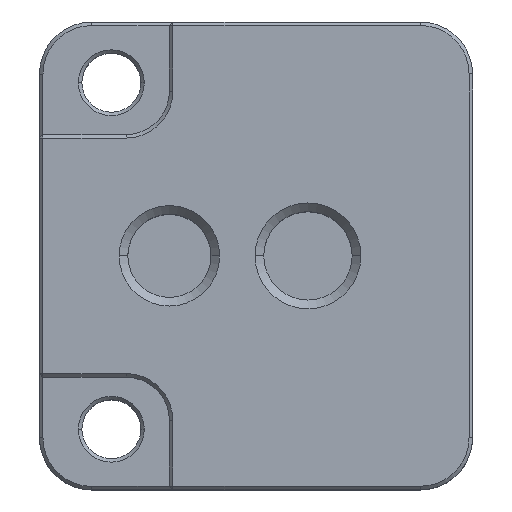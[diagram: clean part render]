
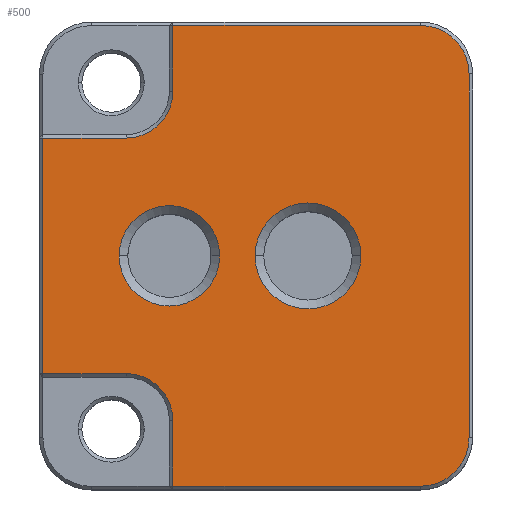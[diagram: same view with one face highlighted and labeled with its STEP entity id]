
A CAD part, top view. The second image highlights one B-rep face of the part: STEP entity #500.
In plain terms, the highlighted planar face has unit normal (0, 0, 1).
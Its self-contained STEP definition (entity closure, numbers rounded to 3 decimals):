
#64 = VERTEX_POINT ( 'NONE', #224 ) ;
#78 = DIRECTION ( 'NONE',  ( 0., 0., 1. ) ) ;
#89 = ORIENTED_EDGE ( 'NONE', *, *, #2319, .T. ) ;
#99 = DIRECTION ( 'NONE',  ( 0., 0., -1. ) ) ;
#112 = CARTESIAN_POINT ( 'NONE',  ( -11., 6.8, 10. ) ) ;
#114 = EDGE_CURVE ( 'NONE', #1691, #750, #1703, .T. ) ;
#124 = CARTESIAN_POINT ( 'NONE',  ( -0.5, 0., 10. ) ) ;
#138 = ORIENTED_EDGE ( 'NONE', *, *, #114, .T. ) ;
#146 = DIRECTION ( 'NONE',  ( 1., 0., 0. ) ) ;
#152 = AXIS2_PLACEMENT_3D ( 'NONE', #2352, #2374, #650 ) ;
#176 = DIRECTION ( 'NONE',  ( 1., 0., 0. ) ) ;
#180 = VERTEX_POINT ( 'NONE', #399 ) ;
#197 = CARTESIAN_POINT ( 'NONE',  ( -11., -6.8, 10. ) ) ;
#201 = VERTEX_POINT ( 'NONE', #1399 ) ;
#224 = CARTESIAN_POINT ( 'NONE',  ( -11.4, 0., 10. ) ) ;
#246 = VECTOR ( 'NONE', #1919, 1000. ) ;
#251 = EDGE_LOOP ( 'NONE', ( #641, #138, #663, #1221, #1545, #828, #89, #2134, #660, #491, #2232, #1058 ) ) ;
#300 = VECTOR ( 'NONE', #304, 1000. ) ;
#304 = DIRECTION ( 'NONE',  ( 1., 0., 0. ) ) ;
#347 = CARTESIAN_POINT ( 'NONE',  ( 6., -13.3, 10. ) ) ;
#356 = VERTEX_POINT ( 'NONE', #1439 ) ;
#384 = AXIS2_PLACEMENT_3D ( 'NONE', #1312, #1304, #2269 ) ;
#389 = CARTESIAN_POINT ( 'NONE',  ( -11., 9.5, 10. ) ) ;
#393 = DIRECTION ( 'NONE',  ( 1., 0., 0. ) ) ;
#399 = CARTESIAN_POINT ( 'NONE',  ( -8.3, -9.5, 10. ) ) ;
#400 = VERTEX_POINT ( 'NONE', #1065 ) ;
#402 = DIRECTION ( 'NONE',  ( 1., 0., 0. ) ) ;
#405 = ORIENTED_EDGE ( 'NONE', *, *, #1052, .T. ) ;
#427 = AXIS2_PLACEMENT_3D ( 'NONE', #2226, #2411, #146 ) ;
#436 = EDGE_CURVE ( 'NONE', #459, #356, #909, .T. ) ;
#459 = VERTEX_POINT ( 'NONE', #1642 ) ;
#491 = ORIENTED_EDGE ( 'NONE', *, *, #607, .T. ) ;
#500 = ADVANCED_FACE ( 'NONE', ( #1475, #1923, #738 ), #1457, .T. ) ;
#525 = VECTOR ( 'NONE', #1907, 1000. ) ;
#529 = EDGE_CURVE ( 'NONE', #1338, #1297, #1175, .T. ) ;
#530 = LINE ( 'NONE', #722, #2421 ) ;
#577 = DIRECTION ( 'NONE',  ( 0., -1., 0. ) ) ;
#582 = LINE ( 'NONE', #2074, #525 ) ;
#607 = EDGE_CURVE ( 'NONE', #1038, #2142, #1089, .T. ) ;
#641 = ORIENTED_EDGE ( 'NONE', *, *, #2425, .T. ) ;
#643 = DIRECTION ( 'NONE',  ( 1., 0., 0. ) ) ;
#650 = DIRECTION ( 'NONE',  ( 1., 0., 0. ) ) ;
#660 = ORIENTED_EDGE ( 'NONE', *, *, #869, .T. ) ;
#663 = ORIENTED_EDGE ( 'NONE', *, *, #1879, .T. ) ;
#666 = EDGE_CURVE ( 'NONE', #2142, #1338, #736, .T. ) ;
#699 = DIRECTION ( 'NONE',  ( 0., 1., 0. ) ) ;
#703 = AXIS2_PLACEMENT_3D ( 'NONE', #1968, #78, #830 ) ;
#708 = AXIS2_PLACEMENT_3D ( 'NONE', #948, #2272, #402 ) ;
#722 = CARTESIAN_POINT ( 'NONE',  ( 6., -13.3, 10. ) ) ;
#725 = ORIENTED_EDGE ( 'NONE', *, *, #1913, .T. ) ;
#736 = LINE ( 'NONE', #1363, #907 ) ;
#738 = FACE_BOUND ( 'NONE', #935, .T. ) ;
#750 = VERTEX_POINT ( 'NONE', #1005 ) ;
#781 = VERTEX_POINT ( 'NONE', #2152 ) ;
#828 = ORIENTED_EDGE ( 'NONE', *, *, #1537, .T. ) ;
#829 = VERTEX_POINT ( 'NONE', #1209 ) ;
#830 = DIRECTION ( 'NONE',  ( 1., 0., 0. ) ) ;
#844 = CARTESIAN_POINT ( 'NONE',  ( -8.5, 0., 10. ) ) ;
#869 = EDGE_CURVE ( 'NONE', #356, #1038, #961, .T. ) ;
#907 = VECTOR ( 'NONE', #1727, 1000. ) ;
#909 = LINE ( 'NONE', #1857, #1536 ) ;
#911 = ORIENTED_EDGE ( 'NONE', *, *, #2229, .T. ) ;
#935 = EDGE_LOOP ( 'NONE', ( #2013, #405 ) ) ;
#948 = CARTESIAN_POINT ( 'NONE',  ( -0.5, 0., 10. ) ) ;
#958 = CIRCLE ( 'NONE', #384, 2.9 ) ;
#961 = CIRCLE ( 'NONE', #703, 2.8 ) ;
#1000 = CARTESIAN_POINT ( 'NONE',  ( -8.3, 9.5, 10. ) ) ;
#1005 = CARTESIAN_POINT ( 'NONE',  ( -15.8, -6.8, 10. ) ) ;
#1038 = VERTEX_POINT ( 'NONE', #1870 ) ;
#1043 = CIRCLE ( 'NONE', #1854, 2.8 ) ;
#1052 = EDGE_CURVE ( 'NONE', #64, #829, #958, .T. ) ;
#1058 = ORIENTED_EDGE ( 'NONE', *, *, #529, .T. ) ;
#1065 = CARTESIAN_POINT ( 'NONE',  ( -8.3, -13.3, 10. ) ) ;
#1089 = LINE ( 'NONE', #2315, #246 ) ;
#1106 = CARTESIAN_POINT ( 'NONE',  ( -8.3, 13.3, 10. ) ) ;
#1129 = DIRECTION ( 'NONE',  ( 0., 0., 1. ) ) ;
#1175 = CIRCLE ( 'NONE', #1818, 2.7 ) ;
#1209 = CARTESIAN_POINT ( 'NONE',  ( -5.6, 0., 10. ) ) ;
#1216 = CARTESIAN_POINT ( 'NONE',  ( -11., -6.8, 10. ) ) ;
#1221 = ORIENTED_EDGE ( 'NONE', *, *, #1868, .T. ) ;
#1233 = VECTOR ( 'NONE', #577, 1000. ) ;
#1297 = VERTEX_POINT ( 'NONE', #112 ) ;
#1304 = DIRECTION ( 'NONE',  ( 0., 0., -1. ) ) ;
#1312 = CARTESIAN_POINT ( 'NONE',  ( -8.5, 0., 10. ) ) ;
#1314 = AXIS2_PLACEMENT_3D ( 'NONE', #844, #99, #643 ) ;
#1338 = VERTEX_POINT ( 'NONE', #1000 ) ;
#1363 = CARTESIAN_POINT ( 'NONE',  ( -8.3, 9.5, 10. ) ) ;
#1399 = CARTESIAN_POINT ( 'NONE',  ( -3.553, 0., 10. ) ) ;
#1402 = DIRECTION ( 'NONE',  ( 1., 0., 0. ) ) ;
#1439 = CARTESIAN_POINT ( 'NONE',  ( 8.8, 10.5, 10. ) ) ;
#1457 = PLANE ( 'NONE',  #427 ) ;
#1464 = CIRCLE ( 'NONE', #1314, 2.9 ) ;
#1475 = FACE_OUTER_BOUND ( 'NONE', #251, .T. ) ;
#1505 = CARTESIAN_POINT ( 'NONE',  ( 6., -10.5, 10. ) ) ;
#1536 = VECTOR ( 'NONE', #699, 1000. ) ;
#1537 = EDGE_CURVE ( 'NONE', #400, #2080, #530, .T. ) ;
#1545 = ORIENTED_EDGE ( 'NONE', *, *, #1686, .T. ) ;
#1551 = CARTESIAN_POINT ( 'NONE',  ( -15.8, -7., 10. ) ) ;
#1583 = LINE ( 'NONE', #1216, #300 ) ;
#1642 = CARTESIAN_POINT ( 'NONE',  ( 8.8, -10.5, 10. ) ) ;
#1686 = EDGE_CURVE ( 'NONE', #180, #400, #582, .T. ) ;
#1688 = DIRECTION ( 'NONE',  ( 1., 0., 0. ) ) ;
#1691 = VERTEX_POINT ( 'NONE', #1695 ) ;
#1695 = CARTESIAN_POINT ( 'NONE',  ( -15.8, 6.8, 10. ) ) ;
#1703 = LINE ( 'NONE', #1551, #1233 ) ;
#1727 = DIRECTION ( 'NONE',  ( 0., -1., 0. ) ) ;
#1779 = DIRECTION ( 'NONE',  ( 0., 0., -1. ) ) ;
#1788 = CIRCLE ( 'NONE', #152, 2.7 ) ;
#1818 = AXIS2_PLACEMENT_3D ( 'NONE', #389, #1897, #1688 ) ;
#1854 = AXIS2_PLACEMENT_3D ( 'NONE', #1505, #1129, #393 ) ;
#1857 = CARTESIAN_POINT ( 'NONE',  ( 8.8, 10.5, 10. ) ) ;
#1868 = EDGE_CURVE ( 'NONE', #2119, #180, #1788, .T. ) ;
#1870 = CARTESIAN_POINT ( 'NONE',  ( 6., 13.3, 10. ) ) ;
#1875 = VECTOR ( 'NONE', #2191, 1000. ) ;
#1879 = EDGE_CURVE ( 'NONE', #750, #2119, #1583, .T. ) ;
#1897 = DIRECTION ( 'NONE',  ( 0., 0., -1. ) ) ;
#1907 = DIRECTION ( 'NONE',  ( 0., -1., 0. ) ) ;
#1913 = EDGE_CURVE ( 'NONE', #781, #201, #2123, .T. ) ;
#1919 = DIRECTION ( 'NONE',  ( -1., 0., 0. ) ) ;
#1923 = FACE_BOUND ( 'NONE', #2021, .T. ) ;
#1933 = CARTESIAN_POINT ( 'NONE',  ( -16., 6.8, 10. ) ) ;
#1934 = EDGE_CURVE ( 'NONE', #829, #64, #1464, .T. ) ;
#1968 = CARTESIAN_POINT ( 'NONE',  ( 6., 10.5, 10. ) ) ;
#1970 = CIRCLE ( 'NONE', #708, 3.053 ) ;
#2013 = ORIENTED_EDGE ( 'NONE', *, *, #1934, .T. ) ;
#2021 = EDGE_LOOP ( 'NONE', ( #725, #911 ) ) ;
#2074 = CARTESIAN_POINT ( 'NONE',  ( -8.3, -13.5, 10. ) ) ;
#2080 = VERTEX_POINT ( 'NONE', #347 ) ;
#2119 = VERTEX_POINT ( 'NONE', #197 ) ;
#2123 = CIRCLE ( 'NONE', #2138, 3.053 ) ;
#2134 = ORIENTED_EDGE ( 'NONE', *, *, #436, .T. ) ;
#2138 = AXIS2_PLACEMENT_3D ( 'NONE', #124, #1779, #1402 ) ;
#2142 = VERTEX_POINT ( 'NONE', #1106 ) ;
#2152 = CARTESIAN_POINT ( 'NONE',  ( 2.553, 0., 10. ) ) ;
#2191 = DIRECTION ( 'NONE',  ( -1., 0., 0. ) ) ;
#2226 = CARTESIAN_POINT ( 'NONE',  ( -13., -10.5, 10. ) ) ;
#2229 = EDGE_CURVE ( 'NONE', #201, #781, #1970, .T. ) ;
#2232 = ORIENTED_EDGE ( 'NONE', *, *, #666, .T. ) ;
#2265 = LINE ( 'NONE', #1933, #1875 ) ;
#2269 = DIRECTION ( 'NONE',  ( 1., 0., 0. ) ) ;
#2272 = DIRECTION ( 'NONE',  ( 0., 0., -1. ) ) ;
#2315 = CARTESIAN_POINT ( 'NONE',  ( -8.5, 13.3, 10. ) ) ;
#2319 = EDGE_CURVE ( 'NONE', #2080, #459, #1043, .T. ) ;
#2352 = CARTESIAN_POINT ( 'NONE',  ( -11., -9.5, 10. ) ) ;
#2374 = DIRECTION ( 'NONE',  ( 0., 0., -1. ) ) ;
#2411 = DIRECTION ( 'NONE',  ( 0., 0., 1. ) ) ;
#2421 = VECTOR ( 'NONE', #176, 1000. ) ;
#2425 = EDGE_CURVE ( 'NONE', #1297, #1691, #2265, .T. ) ;
